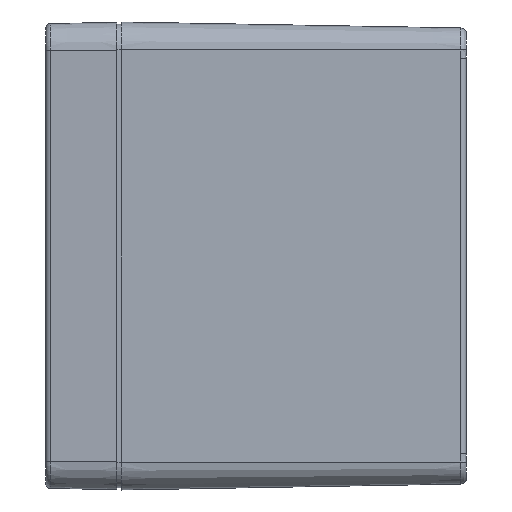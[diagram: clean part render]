
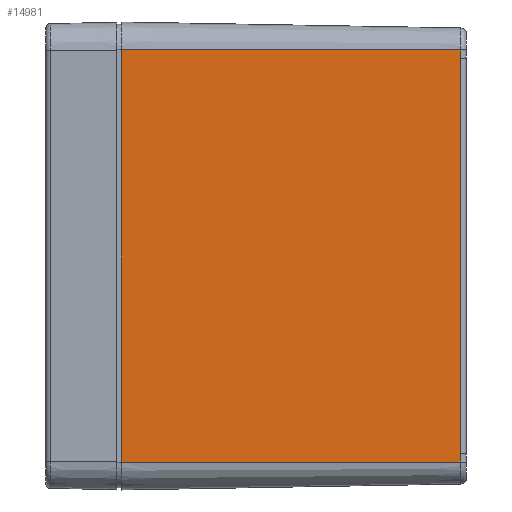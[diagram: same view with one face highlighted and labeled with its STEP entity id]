
A CAD part, left-side view. The second image highlights one B-rep face of the part: STEP entity #14981.
In plain terms, the highlighted planar face has unit normal (-1, -0.018, 0).
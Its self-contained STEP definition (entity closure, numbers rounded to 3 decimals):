
#726 = CARTESIAN_POINT ( 'NONE',  ( -48.815, -73.623, -43.5 ) ) ;
#1164 = CARTESIAN_POINT ( 'NONE',  ( -48.815, -73.591, 42.901 ) ) ;
#2291 = VERTEX_POINT ( 'NONE', #41105 ) ;
#4044 = CARTESIAN_POINT ( 'NONE',  ( -48.815, -73.591, -42.901 ) ) ;
#4406 = CARTESIAN_POINT ( 'NONE',  ( -50.083, -1., 44.1 ) ) ;
#4691 = CARTESIAN_POINT ( 'NONE',  ( -48.816, -73.572, 42.301 ) ) ;
#4940 = CARTESIAN_POINT ( 'NONE',  ( -48.815, -73.632, 44.1 ) ) ;
#5972 = VECTOR ( 'NONE', #46578, 1000. ) ;
#5984 = FACE_OUTER_BOUND ( 'NONE', #27218, .T. ) ;
#9204 = CARTESIAN_POINT ( 'NONE',  ( -50.1, 0., -44.1 ) ) ;
#9682 = LINE ( 'NONE', #35210, #5972 ) ;
#10584 = AXIS2_PLACEMENT_3D ( 'NONE', #38397, #20435, #46215 ) ;
#10713 = VERTEX_POINT ( 'NONE', #4406 ) ;
#12061 = DIRECTION ( 'NONE',  ( -0.017, 1., 0. ) ) ;
#12070 = CARTESIAN_POINT ( 'NONE',  ( -48.815, -73.623, 43.5 ) ) ;
#12304 = CARTESIAN_POINT ( 'NONE',  ( -48.815, -73.635, 43.8 ) ) ;
#12481 = ORIENTED_EDGE ( 'NONE', *, *, #18542, .T. ) ;
#14468 = VECTOR ( 'NONE', #12061, 1000. ) ;
#14981 = ADVANCED_FACE ( 'NONE', ( #5984 ), #45497, .T. ) ;
#15053 = B_SPLINE_CURVE_WITH_KNOTS ( 'NONE', 3,
 ( #18971, #40695, #726, #4044, #37375, #29131 ),
 .UNSPECIFIED., .F., .F.,
 ( 4, 2, 4 ),
 ( 0., 0.001, 0.002 ),
 .UNSPECIFIED. ) ;
#15392 = CARTESIAN_POINT ( 'NONE',  ( -48.816, -73.572, 42.601 ) ) ;
#16457 = CARTESIAN_POINT ( 'NONE',  ( -48.816, -73.572, -42.301 ) ) ;
#17898 = EDGE_CURVE ( 'NONE', #2291, #43720, #15053, .T. ) ;
#18240 = ORIENTED_EDGE ( 'NONE', *, *, #42031, .T. ) ;
#18542 = EDGE_CURVE ( 'NONE', #43720, #19311, #40074, .T. ) ;
#18971 = CARTESIAN_POINT ( 'NONE',  ( -48.815, -73.632, -44.1 ) ) ;
#19311 = VERTEX_POINT ( 'NONE', #4691 ) ;
#20435 = DIRECTION ( 'NONE',  ( -1., -0.017, 0. ) ) ;
#21988 = ORIENTED_EDGE ( 'NONE', *, *, #28961, .F. ) ;
#22728 = CARTESIAN_POINT ( 'NONE',  ( -48.816, -73.572, 42.301 ) ) ;
#23227 = CARTESIAN_POINT ( 'NONE',  ( -50.083, -1., 44.1 ) ) ;
#23483 = EDGE_CURVE ( 'NONE', #10713, #38268, #37859, .T. ) ;
#26314 = VECTOR ( 'NONE', #30746, 1000. ) ;
#26723 = ORIENTED_EDGE ( 'NONE', *, *, #40718, .T. ) ;
#27218 = EDGE_LOOP ( 'NONE', ( #18240, #42106, #21988, #46467, #12481, #26723 ) ) ;
#28961 = EDGE_CURVE ( 'NONE', #2291, #38268, #41585, .T. ) ;
#29131 = CARTESIAN_POINT ( 'NONE',  ( -48.816, -73.572, -42.301 ) ) ;
#29920 = VECTOR ( 'NONE', #39596, 1000. ) ;
#30746 = DIRECTION ( 'NONE',  ( 0., 0., -1. ) ) ;
#32681 = B_SPLINE_CURVE_WITH_KNOTS ( 'NONE', 3,
 ( #22728, #15392, #1164, #12070, #12304, #4940 ),
 .UNSPECIFIED., .F., .F.,
 ( 4, 2, 4 ),
 ( 0., 0.001, 0.002 ),
 .UNSPECIFIED. ) ;
#32720 = CARTESIAN_POINT ( 'NONE',  ( -48.816, -73.572, 44.1 ) ) ;
#35210 = CARTESIAN_POINT ( 'NONE',  ( -50.1, 0., 44.1 ) ) ;
#37375 = CARTESIAN_POINT ( 'NONE',  ( -48.816, -73.572, -42.601 ) ) ;
#37859 = LINE ( 'NONE', #23227, #26314 ) ;
#38268 = VERTEX_POINT ( 'NONE', #38526 ) ;
#38397 = CARTESIAN_POINT ( 'NONE',  ( -50.1, 0., 44.1 ) ) ;
#38526 = CARTESIAN_POINT ( 'NONE',  ( -50.083, -1., -44.1 ) ) ;
#39596 = DIRECTION ( 'NONE',  ( 0., 0., 1. ) ) ;
#40074 = LINE ( 'NONE', #32720, #29920 ) ;
#40695 = CARTESIAN_POINT ( 'NONE',  ( -48.815, -73.635, -43.8 ) ) ;
#40718 = EDGE_CURVE ( 'NONE', #19311, #42196, #32681, .T. ) ;
#41105 = CARTESIAN_POINT ( 'NONE',  ( -48.815, -73.632, -44.1 ) ) ;
#41585 = LINE ( 'NONE', #9204, #14468 ) ;
#42031 = EDGE_CURVE ( 'NONE', #42196, #10713, #9682, .T. ) ;
#42106 = ORIENTED_EDGE ( 'NONE', *, *, #23483, .T. ) ;
#42196 = VERTEX_POINT ( 'NONE', #44190 ) ;
#43720 = VERTEX_POINT ( 'NONE', #16457 ) ;
#44190 = CARTESIAN_POINT ( 'NONE',  ( -48.815, -73.632, 44.1 ) ) ;
#45497 = PLANE ( 'NONE',  #10584 ) ;
#46215 = DIRECTION ( 'NONE',  ( 0.017, -1., 0. ) ) ;
#46467 = ORIENTED_EDGE ( 'NONE', *, *, #17898, .T. ) ;
#46578 = DIRECTION ( 'NONE',  ( -0.017, 1., 0. ) ) ;
